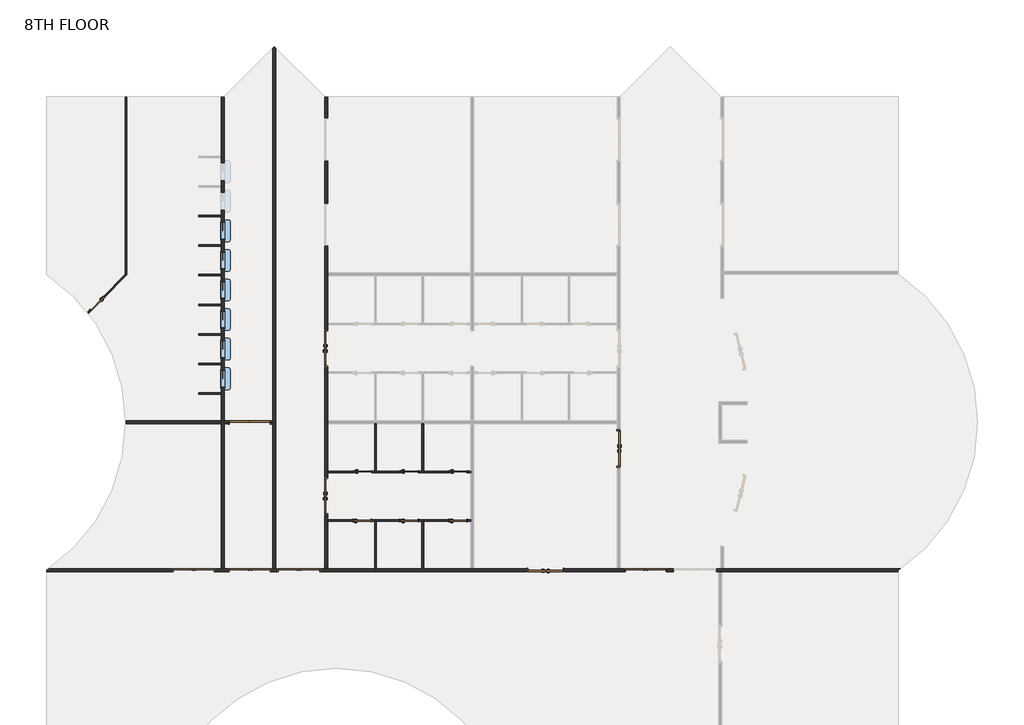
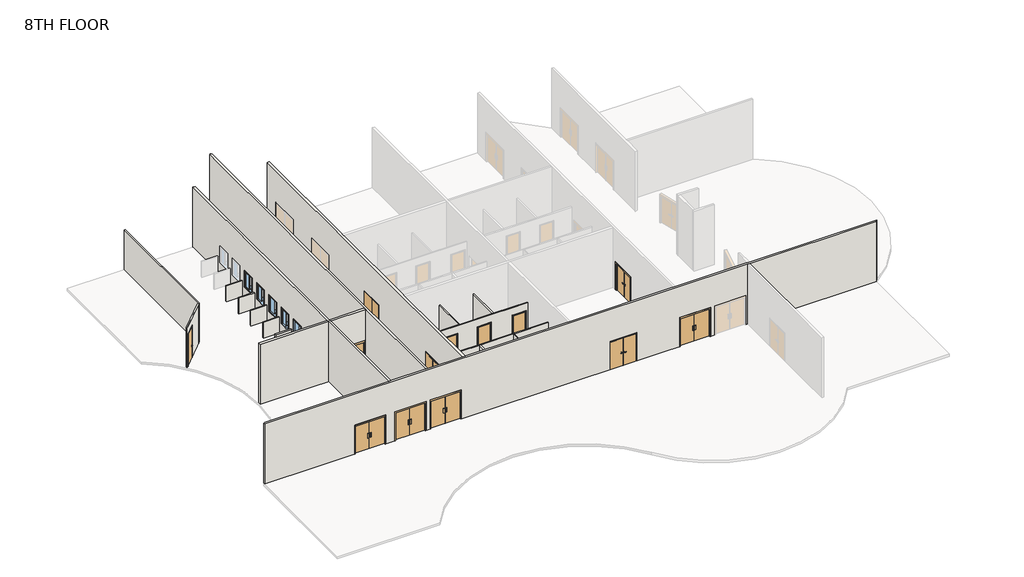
# One storey, part 1 of 2: 20 walls, 16 doors, 6 windows.
"""IFC4 building model written with IfcOpenShell, lengths in millimetres."""

from ifc_helpers import new_model, si_unit, point, frame, frame_2d, origin, place, context, project, spatial, polyline, circle_curve, trimmed, segment, composite_curve, outline, extrude, faceted_brep, transform, mapped, element, save
from ifc_brep_helpers import plane_surface, cylinder_surface, revolved_surface, advanced_brep
from components import door_2f250f70, door_0b13e4d9, door_b3a27a16, door_979b1b8c, door_f8b587be, pass_thru_4x3_19d81059

model = new_model("IFC4")

# Units and contexts
model_context = context("Model", 3, world=origin())
ifc_project = project(units=[si_unit("LENGTHUNIT", "METRE", prefix="MILLI")], contexts=[model_context])

# Site, building, storey
site = spatial("IfcSite", under=ifc_project)
building = spatial("IfcBuilding", under=site)
storey = spatial("IfcBuildingStorey", under=building, Name="8TH FLOOR", Elevation=36576.0)

# Doors
placement = place(None, origin())
door_shape = door_2f250f70(model_context)
element("IfcDoor", 1, ObjectType="Door-Passage-Double-Flush : 72\" x 82\"", at=placement, inside=storey, context=model_context, shape_type="MappedRepresentation", body=[
    mapped(door_shape, transform((14556.3400257, 13109.575, 36576.0), x_axis=(0.0, 1.0, 0.0), y_axis=(-1.0, 0.0, 0.0), z_axis=(0.0, 0.0, 1.0))),
])
element("IfcDoor", 2, ObjectType="Door-Passage-Double-Flush : 72\" x 82\"", at=placement, inside=storey, context=model_context, shape_type="MappedRepresentation", body=[
    mapped(door_shape, transform((14556.3400257, 20729.575, 36576.0), x_axis=(0.0, 1.0, 0.0), y_axis=(-1.0, 0.0, 0.0), z_axis=(0.0, 0.0, 1.0))),
])
element("IfcDoor", 3, ObjectType="Door-Passage-Double-Flush : 72\" x 82\"", at=placement, inside=storey, context=model_context, shape_type="MappedRepresentation", body=[
    mapped(door_shape, transform((25872.8337757, 9305.925, 36576.0), x_axis=(-1.0, 0.0, 0.0), y_axis=(0.0, -1.0, 0.0), z_axis=(0.0, 0.0, 1.0))),
])
element("IfcDoor", 4, ObjectType="Door-Passage-Double-Flush : 72\" x 82\"", at=placement, inside=storey, context=model_context, shape_type="MappedRepresentation", body=[
    mapped(door_shape, transform((29628.0650257, 15571.7875, 36576.0), x_axis=(0.0, -1.0, 0.0), y_axis=(1.0, 0.0, 0.0), z_axis=(0.0, 0.0, 1.0))),
])
door_2_shape = door_0b13e4d9(model_context)
element("IfcDoor", 5, ObjectType="Door-Passage-Double-Flush-Dbl_Acting : 84\" x 84\"", at=placement, inside=storey, context=model_context, shape_type="MappedRepresentation", body=[
    mapped(door_2_shape, transform((13151.4025257, 9293.225, 36576.0), x_axis=(-1.0, 0.0, 0.0), y_axis=(0.0, -1.0, 0.0), z_axis=(0.0, 0.0, 1.0))),
])
door_3_shape = door_b3a27a16(model_context)
element("IfcDoor", 6, ObjectType="Door-Passage-Double-Flush-Dbl_Acting : 84\" x 84\"", at=placement, inside=storey, context=model_context, shape_type="MappedRepresentation", body=[
    mapped(door_3_shape, transform((31033.0025257, 9293.225, 36576.0), x_axis=(1.0, 0.0, 0.0), y_axis=(0.0, 1.0, 0.0), z_axis=(0.0, 0.0, 1.0))),
])
element("IfcDoor", 7, ObjectType="Door-Passage-Double-Flush-Dbl_Acting : 84\" x 84\"", at=placement, inside=storey, context=model_context, shape_type="MappedRepresentation", body=[
    mapped(door_3_shape, transform((10620.375, 9293.225, 36576.0), x_axis=(1.0, 0.0, 0.0), y_axis=(0.0, 1.0, 0.0), z_axis=(0.0, 0.0, 1.0))),
])
element("IfcDoor", 8, ObjectType="Door-Passage-Double-Flush-Dbl_Acting : 84\" x 84\"", at=placement, inside=storey, context=model_context, shape_type="MappedRepresentation", body=[
    mapped(door_3_shape, transform((7730.5724743, 9293.225, 36576.0), x_axis=(1.0, 0.0, 0.0), y_axis=(0.0, 1.0, 0.0), z_axis=(0.0, 0.0, 1.0))),
])
element("IfcDoor", 9, ObjectType="Door-Passage-Double-Flush-Dbl_Acting : 84\" x 84\"", at=placement, inside=storey, context=model_context, shape_type="MappedRepresentation", body=[
    mapped(door_3_shape, transform((10620.375, 16913.225, 36576.0), x_axis=(1.0, 0.0, 0.0), y_axis=(0.0, 1.0, 0.0), z_axis=(0.0, 0.0, 1.0))),
])
door_4_shape = door_979b1b8c(model_context)
element("IfcDoor", 10, ObjectType="Door-Passage-Single-Flush : 36\" x 96\"", at=placement, inside=storey, context=model_context, shape_type="MappedRepresentation", body=[
    mapped(door_4_shape, transform((16456.5775257, 14357.35, 36576.0), x_axis=(1.0, 0.0, 0.0), y_axis=(0.0, 1.0, 0.0), z_axis=(0.0, 0.0, 1.0))),
])
element("IfcDoor", 11, ObjectType="Door-Passage-Single-Flush : 36\" x 96\"", at=placement, inside=storey, context=model_context, shape_type="MappedRepresentation", body=[
    mapped(door_4_shape, transform((18855.2900257, 14357.35, 36576.0), x_axis=(1.0, 0.0, 0.0), y_axis=(0.0, 1.0, 0.0), z_axis=(0.0, 0.0, 1.0))),
])
element("IfcDoor", 12, ObjectType="Door-Passage-Single-Flush : 36\" x 96\"", at=placement, inside=storey, context=model_context, shape_type="MappedRepresentation", body=[
    mapped(door_4_shape, transform((21373.0650257, 14357.35, 36576.0), x_axis=(1.0, 0.0, 0.0), y_axis=(0.0, 1.0, 0.0), z_axis=(0.0, 0.0, 1.0))),
])
element("IfcDoor", 13, ObjectType="Door-Passage-Single-Flush : 36\" x 96\"", at=placement, inside=storey, context=model_context, shape_type="MappedRepresentation", body=[
    mapped(door_4_shape, transform((2731.3607977, 23031.2061406, 36576.0), x_axis=(-0.7071067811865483, -0.7071067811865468, 0.0), y_axis=(0.7071067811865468, -0.7071067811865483, 0.0), z_axis=(0.0, 0.0, 1.0))),
])
door_5_shape = door_f8b587be(model_context)
element("IfcDoor", 14, ObjectType="Door-Passage-Single-Flush : 36\" x 96\"", at=placement, inside=storey, context=model_context, shape_type="MappedRepresentation", body=[
    mapped(door_5_shape, transform((16405.7775257, 11861.8, 36576.0), x_axis=(1.0, 0.0, 0.0), y_axis=(0.0, 1.0, 0.0), z_axis=(0.0, 0.0, 1.0))),
])
element("IfcDoor", 15, ObjectType="Door-Passage-Single-Flush : 36\" x 96\"", at=placement, inside=storey, context=model_context, shape_type="MappedRepresentation", body=[
    mapped(door_5_shape, transform((18836.2400257, 11861.8, 36576.0), x_axis=(1.0, 0.0, 0.0), y_axis=(0.0, 1.0, 0.0), z_axis=(0.0, 0.0, 1.0))),
])
element("IfcDoor", 16, ObjectType="Door-Passage-Single-Flush : 36\" x 96\"", at=placement, inside=storey, context=model_context, shape_type="MappedRepresentation", body=[
    mapped(door_5_shape, transform((21354.0150257, 11861.8, 36576.0), x_axis=(1.0, 0.0, 0.0), y_axis=(0.0, 1.0, 0.0), z_axis=(0.0, 0.0, 1.0))),
])

# Walls
element("IfcWall", 17, ObjectType="SYR_INT_ONE_HOUR", at=placement, inside=storey, context=model_context, shape_type="SweptSolid", body=[
    extrude(outline(polyline([(17066.1775257, 14403.3875), (17066.1775257, 16841.7875), (17145.5525257, 16841.7875), (17145.5525257, 14403.3875), (17066.1775257, 14403.3875)])), frame((0.0, 0.0, 36576.0), z_axis=(0.0, 0.0, 1.0), x_axis=(1.0, 0.0, 0.0)), (0.0, 0.0, 1.0), 3048.0),
])
element("IfcWall", 18, ObjectType="SYR_INT_ONE_HOUR", at=placement, inside=storey, context=model_context, shape_type="SweptSolid", body=[
    extrude(outline(polyline([(19576.0150257, 11815.7625), (19576.0150257, 9377.3625), (19496.6400257, 9377.3625), (19496.6400257, 11815.7625), (19576.0150257, 11815.7625)])), frame((0.0, 0.0, 36576.0), z_axis=(0.0, 0.0, 1.0), x_axis=(1.0, 0.0, 0.0)), (0.0, 0.0, 1.0), 3048.0),
])
element("IfcWall", 19, ObjectType="SYR_INT_ONE_HOUR", at=placement, inside=storey, context=model_context, shape_type="Brep", body=[
    faceted_brep([(14627.7775257, 14403.3875, 39624.0), (17066.1775257, 14403.3875, 39624.0), (17145.5525257, 14403.3875, 39624.0), (19496.6400257, 14403.3875, 39624.0), (19576.0150257, 14403.3875, 39624.0), (22014.4150257, 14403.3875, 39624.0), (22014.4150257, 14403.3875, 36576.0), (21862.0150257, 14403.3875, 36576.0), (21862.0150257, 14403.3875, 39046.15), (20884.1150257, 14403.3875, 39046.15), (20884.1150257, 14403.3875, 36576.0), (19576.0150257, 14403.3875, 36576.0), (19496.6400257, 14403.3875, 36576.0), (19344.2400257, 14403.3875, 36576.0), (19344.2400257, 14403.3875, 39046.15), (18366.3400257, 14403.3875, 39046.15), (18366.3400257, 14403.3875, 36576.0), (17145.5525257, 14403.3875, 36576.0), (17066.1775257, 14403.3875, 36576.0), (16945.5275257, 14403.3875, 36576.0), (16945.5275257, 14403.3875, 39046.15), (15967.6275257, 14403.3875, 39046.15), (15967.6275257, 14403.3875, 36576.0), (14627.7775257, 14403.3875, 36576.0), (22014.4150257, 14324.0125, 39624.0), (14627.7775257, 14324.0125, 39624.0), (14627.7775257, 14324.0125, 36576.0), (15967.6275257, 14324.0125, 36576.0), (15967.6275257, 14324.0125, 39046.15), (16945.5275257, 14324.0125, 39046.15), (16945.5275257, 14324.0125, 36576.0), (18366.3400257, 14324.0125, 36576.0), (18366.3400257, 14324.0125, 39046.15), (19344.2400257, 14324.0125, 39046.15), (19344.2400257, 14324.0125, 36576.0), (20884.1150257, 14324.0125, 36576.0), (20884.1150257, 14324.0125, 39046.15), (21862.0150257, 14324.0125, 39046.15), (21862.0150257, 14324.0125, 36576.0), (22014.4150257, 14324.0125, 36576.0)], [[[0, 1, 2, 3, 4, 5, 6, 7, 8, 9, 10, 11, 12, 13, 14, 15, 16, 17, 18, 19, 20, 21, 22, 23]], [[24, 25, 26, 27, 28, 29, 30, 31, 32, 33, 34, 35, 36, 37, 38, 39]], [[6, 39, 38, 7]], [[26, 23, 22, 27]], [[30, 19, 18, 17, 16, 31]], [[34, 13, 12, 11, 10, 35]], [[5, 4, 3, 2, 1, 0, 25, 24]], [[0, 23, 26, 25]], [[6, 5, 24, 39]], [[29, 20, 19, 30]], [[20, 29, 28, 21]], [[21, 28, 27, 22]], [[14, 13, 34, 33]], [[15, 14, 33, 32]], [[16, 15, 32, 31]], [[37, 8, 7, 38]], [[8, 37, 36, 9]], [[9, 36, 35, 10]]]),
])
element("IfcWall", 20, ObjectType="SYR_INT_ONE_HOUR", at=placement, inside=storey, context=model_context, shape_type="Brep", body=[
    faceted_brep([(14627.7775257, 11895.1375, 39624.0), (22014.4150257, 11895.1375, 39624.0), (22014.4150257, 11895.1375, 36576.0), (21842.9650257, 11895.1375, 36576.0), (21842.9650257, 11895.1375, 39046.15), (20865.0650257, 11895.1375, 39046.15), (20865.0650257, 11895.1375, 36576.0), (19325.1900257, 11895.1375, 36576.0), (19325.1900257, 11895.1375, 39046.15), (18347.2900257, 11895.1375, 39046.15), (18347.2900257, 11895.1375, 36576.0), (16894.7275257, 11895.1375, 36576.0), (16894.7275257, 11895.1375, 39046.15), (15916.8275257, 11895.1375, 39046.15), (15916.8275257, 11895.1375, 36576.0), (14627.7775257, 11895.1375, 36576.0), (22014.4150257, 11815.7625, 39624.0), (19576.0150257, 11815.7625, 39624.0), (19496.6400257, 11815.7625, 39624.0), (17145.5525257, 11815.7625, 39624.0), (17066.1775257, 11815.7625, 39624.0), (14627.7775257, 11815.7625, 39624.0), (14627.7775257, 11815.7625, 36576.0), (15916.8275257, 11815.7625, 36576.0), (15916.8275257, 11815.7625, 39046.15), (16894.7275257, 11815.7625, 39046.15), (16894.7275257, 11815.7625, 36576.0), (17066.1775257, 11815.7625, 36576.0), (17145.5525257, 11815.7625, 36576.0), (18347.2900257, 11815.7625, 36576.0), (18347.2900257, 11815.7625, 39046.15), (19325.1900257, 11815.7625, 39046.15), (19325.1900257, 11815.7625, 36576.0), (19496.6400257, 11815.7625, 36576.0), (19576.0150257, 11815.7625, 36576.0), (20865.0650257, 11815.7625, 36576.0), (20865.0650257, 11815.7625, 39046.15), (21842.9650257, 11815.7625, 39046.15), (21842.9650257, 11815.7625, 36576.0), (22014.4150257, 11815.7625, 36576.0)], [[[0, 1, 2, 3, 4, 5, 6, 7, 8, 9, 10, 11, 12, 13, 14, 15]], [[16, 17, 18, 19, 20, 21, 22, 23, 24, 25, 26, 27, 28, 29, 30, 31, 32, 33, 34, 35, 36, 37, 38, 39]], [[2, 39, 38, 3]], [[22, 15, 14, 23]], [[26, 11, 10, 29, 28, 27]], [[32, 7, 6, 35, 34, 33]], [[1, 0, 21, 20, 19, 18, 17, 16]], [[0, 15, 22, 21]], [[2, 1, 16, 39]], [[25, 12, 11, 26]], [[12, 25, 24, 13]], [[13, 24, 23, 14]], [[31, 8, 7, 32]], [[8, 31, 30, 9]], [[9, 30, 29, 10]], [[37, 4, 3, 38]], [[4, 37, 36, 5]], [[5, 36, 35, 6]]]),
])
element("IfcWall", 21, ObjectType="SYR_INT_ONE_HOUR", at=placement, inside=storey, context=model_context, shape_type="SweptSolid", body=[
    extrude(outline(polyline([(17066.1775257, 9377.3625), (17066.1775257, 11815.7625), (17145.5525257, 11815.7625), (17145.5525257, 9377.3625), (17066.1775257, 9377.3625)])), frame((0.0, 0.0, 36576.0), z_axis=(0.0, 0.0, 1.0), x_axis=(1.0, 0.0, 0.0)), (0.0, 0.0, 1.0), 3048.0),
])
element("IfcWall", 22, ObjectType="SYR_INT_ONE_HOUR", at=placement, inside=storey, context=model_context, shape_type="SweptSolid", body=[
    extrude(outline(polyline([(19576.0150257, 16841.7875), (19576.0150257, 14403.3875), (19496.6400257, 14403.3875), (19496.6400257, 16841.7875), (19576.0150257, 16841.7875)])), frame((0.0, 0.0, 36576.0), z_axis=(0.0, 0.0, 1.0), x_axis=(1.0, 0.0, 0.0)), (0.0, 0.0, 1.0), 3048.0),
])
element("IfcWall", 23, ObjectType="SYR_INT_ONE_HOUR", at=placement, inside=storey, context=model_context, shape_type="SweptSolid", body=[
    extrude(outline(polyline([(7979.2710938, 18443.575), (9144.0, 18443.575), (9144.0, 18364.2), (7979.2710938, 18364.2), (7979.2710938, 18443.575)])), frame((0.0, 0.0, 36576.0), z_axis=(0.0, 0.0, 1.0), x_axis=(1.0, 0.0, 0.0)), (0.0, 0.0, 1.0), 1219.2),
])
element("IfcWall", 24, ObjectType="SYR_INT_ONE_HOUR", at=placement, inside=storey, context=model_context, shape_type="SweptSolid", body=[
    extrude(outline(polyline([(7979.2710938, 19967.575), (9144.0, 19967.575), (9144.0, 19888.2), (7979.2710938, 19888.2), (7979.2710938, 19967.575)])), frame((0.0, 0.0, 36576.0), z_axis=(0.0, 0.0, 1.0), x_axis=(1.0, 0.0, 0.0)), (0.0, 0.0, 1.0), 1219.2),
])
element("IfcWall", 25, ObjectType="SYR_INT_ONE_HOUR", at=placement, inside=storey, context=model_context, shape_type="SweptSolid", body=[
    extrude(outline(polyline([(7979.2710938, 21491.575), (9144.0, 21491.575), (9144.0, 21412.2), (7979.2710938, 21412.2), (7979.2710938, 21491.575)])), frame((0.0, 0.0, 36576.0), z_axis=(0.0, 0.0, 1.0), x_axis=(1.0, 0.0, 0.0)), (0.0, 0.0, 1.0), 1219.2),
])
element("IfcWall", 26, ObjectType="SYR_INT_ONE_HOUR", at=placement, inside=storey, context=model_context, shape_type="SweptSolid", body=[
    extrude(outline(polyline([(7979.2710938, 23015.575), (9144.0, 23015.575), (9144.0, 22936.2), (7979.2710938, 22936.2), (7979.2710938, 23015.575)])), frame((0.0, 0.0, 36576.0), z_axis=(0.0, 0.0, 1.0), x_axis=(1.0, 0.0, 0.0)), (0.0, 0.0, 1.0), 1219.2),
])
element("IfcWall", 27, ObjectType="SYR_INT_ONE_HOUR", at=placement, inside=storey, context=model_context, shape_type="SweptSolid", body=[
    extrude(outline(polyline([(7979.2710938, 24539.575), (9144.0, 24539.575), (9144.0, 24460.2), (7979.2710938, 24460.2), (7979.2710938, 24539.575)])), frame((0.0, 0.0, 36576.0), z_axis=(0.0, 0.0, 1.0), x_axis=(1.0, 0.0, 0.0)), (0.0, 0.0, 1.0), 1219.2),
])
element("IfcWall", 28, ObjectType="SYR_INT_ONE_HOUR", at=placement, inside=storey, context=model_context, shape_type="SweptSolid", body=[
    extrude(outline(polyline([(7979.2710938, 26063.575), (9144.0, 26063.575), (9144.0, 25984.2), (7979.2710938, 25984.2), (7979.2710938, 26063.575)])), frame((0.0, 0.0, 36576.0), z_axis=(0.0, 0.0, 1.0), x_axis=(1.0, 0.0, 0.0)), (0.0, 0.0, 1.0), 1219.2),
])
element("IfcWall", 29, ObjectType="SYR_INT_ONE_HOUR", at=placement, inside=storey, context=model_context, shape_type="SweptSolid", body=[
    extrude(outline(polyline([(7979.2710938, 27587.575), (9144.0, 27587.575), (9144.0, 27508.2), (7979.2710938, 27508.2), (7979.2710938, 27587.575)])), frame((0.0, 0.0, 36576.0), z_axis=(0.0, 0.0, 1.0), x_axis=(1.0, 0.0, 0.0)), (0.0, 0.0, 1.0), 1219.2),
])
element("IfcWall", 30, ObjectType="SYR_INT_ONE_HOUR", at=placement, inside=storey, context=model_context, shape_type="Brep", body=[
    faceted_brep([(4209.0224132, 33683.575, 36576.0), (4209.0224132, 24556.0141008, 36576.0), (4209.0224132, 24443.7608992, 36576.0), (4209.0224132, 24443.7608992, 39624.0), (4209.0224132, 24556.0141008, 39624.0), (4209.0224132, 33683.575, 39624.0), (4288.3974132, 33683.575, 36576.0), (4288.3974132, 33683.575, 39624.0), (4288.3974132, 24523.1358992, 39624.0), (4288.3974132, 24523.1358992, 36576.0)], [[[0, 1, 2, 3, 4, 5]], [[6, 7, 8, 9]], [[2, 1, 0, 6, 9]], [[5, 4, 3, 8, 7]], [[3, 2, 9, 8]], [[0, 5, 7, 6]]]),
])
element("IfcWall", 31, ObjectType="SYR_INT_ONE_HOUR", at=placement, inside=storey, context=model_context, shape_type="AdvancedBrep", body=[
    advanced_brep(
    [(2260.5955581, 22607.5872456, 39624.0), (4209.0224132, 24556.0141008, 39624.0), (4209.0224132, 24556.0141008, 36576.0), (3053.527486, 23400.5191735, 36576.0), (3053.527486, 23400.5191735, 39046.15), (2362.0477647, 22709.0394522, 39046.15), (2362.0477647, 22709.0394522, 36576.0), (2260.5955581, 22607.5872456, 36576.0), (4209.0224132, 24443.7608992, 39624.0), (2310.04482, 22544.783306, 39624.0), (2310.04482, 22544.783306, 36576.0), (2418.1743655, 22652.9128515, 36576.0), (2418.1743655, 22652.9128515, 39046.15), (3109.6540868, 23344.3925728, 39046.15), (3109.6540868, 23344.3925728, 36576.0), (4209.0224132, 24443.7608992, 36576.0)],
    [
        (0, 1),
        (1, 2),
        (2, 3),
        (3, 4),
        (4, 5),
        (5, 6),
        (6, 7),
        (7, 0),
        (8, 9),
        (9, 10),
        (10, 11),
        (11, 12),
        (12, 13),
        (13, 14),
        (14, 15),
        (15, 8),
        (2, 15),
        (14, 3),
        (10, 7, circle_curve(frame((-4898.9611805, 16919.575, 36576.0), z_axis=(0.0, 0.0, 1.0), x_axis=(1.0, 0.0, 0.0)), 9144.0)),
        (6, 11),
        (0, 9, circle_curve(frame((-4898.9611805, 16919.575, 39624.0), z_axis=(0.0, 0.0, -1.0), x_axis=(1.0, 0.0, 0.0)), 9144.0)),
        (8, 1),
        (5, 12),
        (4, 13),
    ],
    [
        plane_surface(frame((4220.6466129, 24567.6383004, 36576.0), z_axis=(-0.7071067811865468, 0.7071067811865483, 0.0), x_axis=(-0.7071067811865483, -0.7071067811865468, 0.0))),
        plane_surface(frame((4276.7732136, 24511.5116996, 36576.0), z_axis=(0.7071067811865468, -0.7071067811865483, 0.0), x_axis=(0.7071067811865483, 0.7071067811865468, 0.0))),
        plane_surface(frame((4220.6466129, 24567.6383004, 36576.0), z_axis=(0.0, 0.0, -1.0), x_axis=(0.7071067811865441, -0.7071067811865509, 0.0))),
        plane_surface(frame((2146.5216178, 22493.5133053, 39624.0), z_axis=(0.0, 0.0, 1.0000000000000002), x_axis=(0.7071067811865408, -0.7071067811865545, 0.0))),
        plane_surface(frame((4209.0224132, 33778.5769531, 36576.0), z_axis=(1.0, 0.0, 0.0), x_axis=(0.0, -1.0, 0.0))),
        plane_surface(frame((1284.4170302, 23786.6701867, 36576.0), z_axis=(0.7071067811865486, 0.7071067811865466, 0.0), x_axis=(0.7071067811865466, -0.7071067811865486, 0.0))),
        plane_surface(frame((1284.4170302, 23786.6701867, 39046.15), z_axis=(0.0, 0.0, -1.0), x_axis=(0.7071067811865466, -0.7071067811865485, 0.0))),
        plane_surface(frame((1975.8967515, 24478.1499081, 39046.15), z_axis=(-0.7071067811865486, -0.7071067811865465, 0.0), x_axis=(0.7071067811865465, -0.7071067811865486, 0.0))),
        revolved_surface(polyline([(4245.0388195, 16919.575, 39624.0), (4245.0388195, 16919.575, 36576.0)]), (-4898.9611805, 16919.575, 0.0), (0.0, 0.0, 1.0)),
    ],
    [
        (0, [[1, 2, 3, 4, 5, 6, 7, 8]]),
        (1, [[9, 10, 11, 12, 13, 14, 15, 16]]),
        (2, [[17, -15, 18, -3]]),
        (2, [[19, -7, 20, -11]]),
        (3, [[-1, 21, -9, 22]]),
        (4, [[-2, -22, -16, -17]]),
        (5, [[23, -12, -20, -6]]),
        (6, [[-23, -5, 24, -13]]),
        (7, [[-24, -4, -18, -14]]),
        (8, [[-8, -19, -10, -21]]),
    ],
),
])
element("IfcWall", 32, ObjectType="SYR_INT_TWO_HOUR", at=placement, inside=storey, context=model_context, shape_type="AdvancedBrep", body=[
    advanced_brep(
    [(270.9292057, 9377.3625, 41148.0), (9144.0, 9377.3625, 41148.0), (9299.575, 9377.3625, 41148.0), (11808.1012629, 9377.3625, 41148.0), (11963.6762629, 9377.3625, 41148.0), (14472.2025257, 9377.3625, 41148.0), (14627.7775257, 9377.3625, 41148.0), (22014.4150257, 9377.3625, 41148.0), (22169.9900257, 9377.3625, 41148.0), (29556.6275257, 9377.3625, 41148.0), (29712.2025257, 9377.3625, 41148.0), (34884.8300515, 9377.3625, 41148.0), (35040.4050515, 9377.3625, 41148.0), (44144.1842571, 9377.3625, 41148.0), (44144.1842571, 9377.3625, 36576.0), (35040.4050515, 9377.3625, 36576.0), (34884.8300515, 9377.3625, 36576.0), (34681.6300515, 9377.3625, 36576.0), (34681.6300515, 9377.3625, 38811.2), (32446.4300515, 9377.3625, 38811.2), (32446.4300515, 9377.3625, 36576.0), (32150.6025257, 9377.3625, 36576.0), (32150.6025257, 9377.3625, 38811.2), (29915.4025257, 9377.3625, 38811.2), (29915.4025257, 9377.3625, 36576.0), (29712.2025257, 9377.3625, 36576.0), (29556.6275257, 9377.3625, 36576.0), (26838.0337757, 9377.3625, 36576.0), (26838.0337757, 9377.3625, 38760.4), (24907.6337757, 9377.3625, 38760.4), (24907.6337757, 9377.3625, 36576.0), (22169.9900257, 9377.3625, 36576.0), (22014.4150257, 9377.3625, 36576.0), (19576.0150257, 9377.3625, 36576.0), (19496.6400257, 9377.3625, 36576.0), (17145.5525257, 9377.3625, 36576.0), (17066.1775257, 9377.3625, 36576.0), (14627.7775257, 9377.3625, 36576.0), (14472.2025257, 9377.3625, 36576.0), (14269.0025257, 9377.3625, 36576.0), (14269.0025257, 9377.3625, 38811.2), (12033.8025257, 9377.3625, 38811.2), (12033.8025257, 9377.3625, 36576.0), (11963.6762629, 9377.3625, 36576.0), (11808.1012629, 9377.3625, 36576.0), (11737.975, 9377.3625, 36576.0), (11737.975, 9377.3625, 38811.2), (9502.775, 9377.3625, 38811.2), (9502.775, 9377.3625, 36576.0), (9299.575, 9377.3625, 36576.0), (9144.0, 9377.3625, 36576.0), (8848.1724743, 9377.3625, 36576.0), (8848.1724743, 9377.3625, 38811.2), (6612.9724743, 9377.3625, 38811.2), (6612.9724743, 9377.3625, 36576.0), (270.9292057, 9377.3625, 36576.0), (155.575, 9221.7875, 41148.0), (155.575, 9221.7875, 36576.0), (6612.9724743, 9221.7875, 36576.0), (6612.9724743, 9221.7875, 38811.2), (8848.1724743, 9221.7875, 38811.2), (8848.1724743, 9221.7875, 36576.0), (9502.775, 9221.7875, 36576.0), (9502.775, 9221.7875, 38811.2), (11737.975, 9221.7875, 38811.2), (11737.975, 9221.7875, 36576.0), (12033.8025257, 9221.7875, 36576.0), (12033.8025257, 9221.7875, 38811.2), (14269.0025257, 9221.7875, 38811.2), (14269.0025257, 9221.7875, 36576.0), (24907.6337757, 9221.7875, 36576.0), (24907.6337757, 9221.7875, 38760.4), (26838.0337757, 9221.7875, 38760.4), (26838.0337757, 9221.7875, 36576.0), (29915.4025257, 9221.7875, 36576.0), (29915.4025257, 9221.7875, 38811.2), (32150.6025257, 9221.7875, 38811.2), (32150.6025257, 9221.7875, 36576.0), (32446.4300515, 9221.7875, 36576.0), (32446.4300515, 9221.7875, 38811.2), (34681.6300515, 9221.7875, 38811.2), (34681.6300515, 9221.7875, 36576.0), (34803.3714577, 9221.7875, 36576.0), (34958.9464577, 9221.7875, 36576.0), (44028.8300515, 9221.7875, 36576.0), (44028.8300515, 9221.7875, 41148.0), (34958.9464577, 9221.7875, 41148.0), (34803.3714577, 9221.7875, 41148.0), (44028.8300515, 9299.575, 36576.0), (155.575, 9299.575, 36576.0), (155.575, 9299.575, 41148.0), (44028.8300515, 9299.575, 41148.0)],
    [
        (0, 1),
        (1, 2),
        (2, 3),
        (3, 4),
        (4, 5),
        (5, 6),
        (6, 7),
        (7, 8),
        (8, 9),
        (9, 10),
        (10, 11),
        (11, 12),
        (12, 13),
        (13, 14),
        (14, 15),
        (15, 16),
        (16, 17),
        (17, 18),
        (18, 19),
        (19, 20),
        (20, 21),
        (21, 22),
        (22, 23),
        (23, 24),
        (24, 25),
        (25, 26),
        (26, 27),
        (27, 28),
        (28, 29),
        (29, 30),
        (30, 31),
        (31, 32),
        (32, 33),
        (33, 34),
        (34, 35),
        (35, 36),
        (36, 37),
        (37, 38),
        (38, 39),
        (39, 40),
        (40, 41),
        (41, 42),
        (42, 43),
        (43, 44),
        (44, 45),
        (45, 46),
        (46, 47),
        (47, 48),
        (48, 49),
        (49, 50),
        (50, 51),
        (51, 52),
        (52, 53),
        (53, 54),
        (54, 55),
        (55, 0),
        (56, 57),
        (57, 58),
        (58, 59),
        (59, 60),
        (60, 61),
        (61, 62),
        (62, 63),
        (63, 64),
        (64, 65),
        (65, 66),
        (66, 67),
        (67, 68),
        (68, 69),
        (69, 70),
        (70, 71),
        (71, 72),
        (72, 73),
        (73, 74),
        (74, 75),
        (75, 76),
        (76, 77),
        (77, 78),
        (78, 79),
        (79, 80),
        (80, 81),
        (81, 82),
        (82, 83),
        (83, 84),
        (84, 85),
        (85, 86),
        (86, 87),
        (87, 56),
        (20, 78),
        (77, 21),
        (81, 17),
        (14, 88, circle_curve(frame((38974.293871, 16919.575, 36576.0), z_axis=(0.0, 0.0, -1.0), x_axis=(0.8333333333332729, 0.5527707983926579, 0.0)), 9144.0)),
        (88, 84),
        (24, 74),
        (73, 27),
        (42, 66),
        (65, 45),
        (69, 39),
        (30, 70),
        (48, 62),
        (61, 51),
        (54, 58),
        (57, 89),
        (89, 55, circle_curve(frame((-4898.9611805, 16919.575, 36576.0), z_axis=(0.0, 0.0, 1.0), x_axis=(0.8333333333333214, 0.5527707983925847, 0.0)), 9144.0)),
        (0, 90, circle_curve(frame((-4898.9611805, 16919.575, 41148.0), z_axis=(0.0, 0.0, -1.0), x_axis=(0.8333333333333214, 0.5527707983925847, 0.0)), 9144.0)),
        (90, 56),
        (85, 91),
        (91, 13, circle_curve(frame((38974.293871, 16919.575, 41148.0), z_axis=(0.0, 0.0, 1.0), x_axis=(0.8333333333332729, 0.5527707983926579, 0.0)), 9144.0)),
        (19, 79),
        (18, 80),
        (76, 22),
        (75, 23),
        (41, 67),
        (40, 68),
        (64, 46),
        (63, 47),
        (60, 52),
        (59, 53),
        (29, 71),
        (28, 72),
        (89, 90),
        (91, 88),
    ],
    [
        plane_surface(frame((44028.8300515, 9377.3625, 36576.0), z_axis=(0.0, 1.0, 0.0), x_axis=(-1.0, 0.0, 0.0))),
        plane_surface(frame((44028.8300515, 9221.7875, 36576.0), z_axis=(0.0, -1.0, 0.0), x_axis=(1.0, 0.0, 0.0))),
        plane_surface(frame((44305.118871, 9377.3625, 36576.0), z_axis=(0.0, 0.0, -1.0), x_axis=(0.0, -1.0, 0.0))),
        plane_surface(frame((0.0, 9377.3625, 41148.0), z_axis=(0.0, 0.0, 1.0), x_axis=(0.0, -1.0, 0.0))),
        plane_surface(frame((32446.4300515, 10745.7875, 36576.0), z_axis=(1.0, 0.0, 0.0), x_axis=(0.0, -1.0, 0.0))),
        plane_surface(frame((32446.4300515, 10745.7875, 38811.2), z_axis=(0.0, 0.0, -1.0), x_axis=(0.0, -1.0, 0.0))),
        plane_surface(frame((34681.6300515, 10745.7875, 38811.2), z_axis=(-1.0, 0.0, 0.0), x_axis=(0.0, -1.0, 0.0))),
        plane_surface(frame((32150.6025257, 7697.7875, 36576.0), z_axis=(-1.0, 0.0, 0.0), x_axis=(0.0, 1.0, 0.0))),
        plane_surface(frame((32150.6025257, 7697.7875, 38811.2), z_axis=(0.0, 0.0, -1.0), x_axis=(0.0, 1.0, 0.0))),
        plane_surface(frame((29915.4025257, 7697.7875, 38811.2), z_axis=(1.0, 0.0, 0.0), x_axis=(0.0, 1.0, 0.0))),
        plane_surface(frame((12033.8025257, 10745.7875, 36576.0), z_axis=(1.0, 0.0, 0.0), x_axis=(0.0, -1.0, 0.0))),
        plane_surface(frame((12033.8025257, 10745.7875, 38811.2), z_axis=(0.0, 0.0, -1.0), x_axis=(0.0, -1.0, 0.0))),
        plane_surface(frame((14269.0025257, 10745.7875, 38811.2), z_axis=(-1.0, 0.0, 0.0), x_axis=(0.0, -1.0, 0.0))),
        plane_surface(frame((11737.975, 7697.7875, 36576.0), z_axis=(-1.0, 0.0, 0.0), x_axis=(0.0, 1.0, 0.0))),
        plane_surface(frame((11737.975, 7697.7875, 38811.2), z_axis=(0.0, 0.0, -1.0), x_axis=(0.0, 1.0, 0.0))),
        plane_surface(frame((9502.775, 7697.7875, 38811.2), z_axis=(1.0, 0.0, 0.0), x_axis=(0.0, 1.0, 0.0))),
        plane_surface(frame((8848.1724743, 7697.7875, 36576.0), z_axis=(-1.0, 0.0, 0.0), x_axis=(0.0, 1.0, 0.0))),
        plane_surface(frame((8848.1724743, 7697.7875, 38811.2), z_axis=(0.0, 0.0, -1.0), x_axis=(0.0, 1.0, 0.0))),
        plane_surface(frame((6612.9724743, 7697.7875, 38811.2), z_axis=(1.0, 0.0, 0.0), x_axis=(0.0, 1.0, 0.0))),
        plane_surface(frame((24907.6337757, 10901.3625, 36576.0), z_axis=(1.0, 0.0, 0.0), x_axis=(0.0, -1.0, 0.0))),
        plane_surface(frame((24907.6337757, 10901.3625, 38760.4), z_axis=(0.0, 0.0, -1.0), x_axis=(0.0, -1.0, 0.0))),
        plane_surface(frame((26838.0337757, 10901.3625, 38760.4), z_axis=(-1.0, 0.0, 0.0), x_axis=(0.0, -1.0, 0.0))),
        revolved_surface(polyline([(2721.0388194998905, 21974.111180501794, 41148.0), (2721.0388194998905, 21974.111180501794, 36576.0)]), (-4898.9611805, 16919.575, 36347.4), (0.0, 0.0, 1.0)),
        plane_surface(frame((155.575, -12852.9844355, 36347.4), z_axis=(-1.0, 0.0, 0.0), x_axis=(0.0, -1.0, 0.0))),
        cylinder_surface(frame((38974.293871, 16919.575, 36347.4), z_axis=(0.0, 0.0, 1.0), x_axis=(0.8333333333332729, 0.5527707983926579, 0.0)), 9144.0),
        plane_surface(frame((44028.8300515, -12852.9844355, 36347.4), z_axis=(1.0, 0.0, 0.0), x_axis=(0.0, 1.0, 0.0))),
    ],
    [
        (0, [[1, 2, 3, 4, 5, 6, 7, 8, 9, 10, 11, 12, 13, 14, 15, 16, 17, 18, 19, 20, 21, 22, 23, 24, 25, 26, 27, 28, 29, 30, 31, 32, 33, 34, 35, 36, 37, 38, 39, 40, 41, 42, 43, 44, 45, 46, 47, 48, 49, 50, 51, 52, 53, 54, 55, 56]]),
        (1, [[57, 58, 59, 60, 61, 62, 63, 64, 65, 66, 67, 68, 69, 70, 71, 72, 73, 74, 75, 76, 77, 78, 79, 80, 81, 82, 83, 84, 85, 86, 87, 88]]),
        (2, [[89, -78, 90, -21]]),
        (2, [[91, -17, -16, -15, 92, 93, -84, -83, -82]]),
        (2, [[94, -74, 95, -27, -26, -25]]),
        (2, [[96, -66, 97, -45, -44, -43]]),
        (2, [[98, -39, -38, -37, -36, -35, -34, -33, -32, -31, 99, -70]]),
        (2, [[100, -62, 101, -51, -50, -49]]),
        (2, [[-55, 102, -58, 103, 104]]),
        (3, [[-13, -12, -11, -10, -9, -8, -7, -6, -5, -4, -3, -2, -1, 105, 106, -88, -87, -86, 107, 108]]),
        (4, [[109, -79, -89, -20]]),
        (5, [[-109, -19, 110, -80]]),
        (6, [[-110, -18, -91, -81]]),
        (7, [[111, -22, -90, -77]]),
        (8, [[-111, -76, 112, -23]]),
        (9, [[-112, -75, -94, -24]]),
        (10, [[113, -67, -96, -42]]),
        (11, [[-113, -41, 114, -68]]),
        (12, [[-114, -40, -98, -69]]),
        (13, [[115, -46, -97, -65]]),
        (14, [[-115, -64, 116, -47]]),
        (15, [[-116, -63, -100, -48]]),
        (16, [[117, -52, -101, -61]]),
        (17, [[-117, -60, 118, -53]]),
        (18, [[-118, -59, -102, -54]]),
        (19, [[119, -71, -99, -30]]),
        (20, [[-119, -29, 120, -72]]),
        (21, [[-120, -28, -95, -73]]),
        (22, [[-56, -104, 121, -105]]),
        (23, [[-57, -106, -121, -103]]),
        (24, [[-14, -108, 122, -92]]),
        (25, [[-85, -93, -122, -107]]),
    ],
),
])
element("IfcWall", 33, ObjectType="SYR_INT_TWO_HOUR", at=placement, inside=storey, context=model_context, shape_type="Brep", body=[
    faceted_brep([(9144.0, 33683.575, 36576.0), (9144.0, 30635.575, 36576.0), (9144.0, 30556.2, 36576.0), (9144.0, 29111.575, 36576.0), (9144.0, 29032.2, 36576.0), (9144.0, 27587.575, 36576.0), (9144.0, 27508.2, 36576.0), (9144.0, 26063.575, 36576.0), (9144.0, 25984.2, 36576.0), (9144.0, 24539.575, 36576.0), (9144.0, 24460.2, 36576.0), (9144.0, 23015.575, 36576.0), (9144.0, 22936.2, 36576.0), (9144.0, 21491.575, 36576.0), (9144.0, 21412.2, 36576.0), (9144.0, 19967.575, 36576.0), (9144.0, 19888.2, 36576.0), (9144.0, 18443.575, 36576.0), (9144.0, 18364.2, 36576.0), (9144.0, 16997.3625, 36576.0), (9144.0, 16841.7875, 36576.0), (9144.0, 9377.3625, 36576.0), (9144.0, 9377.3625, 41148.0), (9144.0, 16841.7875, 41148.0), (9144.0, 16997.3625, 41148.0), (9144.0, 33683.575, 41148.0), (9144.0, 19623.0875, 38709.6), (9144.0, 18708.6875, 38709.6), (9144.0, 18708.6875, 37490.4), (9144.0, 19623.0875, 37490.4), (9144.0, 21147.0875, 38709.6), (9144.0, 20232.6875, 38709.6), (9144.0, 20232.6875, 37490.4), (9144.0, 21147.0875, 37490.4), (9144.0, 22671.0875, 38709.6), (9144.0, 21756.6875, 38709.6), (9144.0, 21756.6875, 37490.4), (9144.0, 22671.0875, 37490.4), (9144.0, 24195.0875, 38709.6), (9144.0, 23280.6875, 38709.6), (9144.0, 23280.6875, 37490.4), (9144.0, 24195.0875, 37490.4), (9144.0, 25719.0875, 38709.6), (9144.0, 24804.6875, 38709.6), (9144.0, 24804.6875, 37490.4), (9144.0, 25719.0875, 37490.4), (9144.0, 27243.0875, 38709.6), (9144.0, 26328.6875, 38709.6), (9144.0, 26328.6875, 37490.4), (9144.0, 27243.0875, 37490.4), (9144.0, 28767.0875, 38709.6), (9144.0, 27852.6875, 38709.6), (9144.0, 27852.6875, 37490.4), (9144.0, 28767.0875, 37490.4), (9144.0, 30291.0875, 38709.6), (9144.0, 29376.6875, 38709.6), (9144.0, 29376.6875, 37490.4), (9144.0, 30291.0875, 37490.4), (9299.575, 33683.575, 36576.0), (9299.575, 33683.575, 41148.0), (9299.575, 16997.3625, 41148.0), (9299.575, 16841.7875, 41148.0), (9299.575, 9377.3625, 41148.0), (9299.575, 9377.3625, 36576.0), (9299.575, 16841.7875, 36576.0), (9299.575, 16997.3625, 36576.0), (9299.575, 19623.0875, 38709.6), (9299.575, 19623.0875, 37490.4), (9299.575, 18708.6875, 37490.4), (9299.575, 18708.6875, 38709.6), (9299.575, 21147.0875, 38709.6), (9299.575, 21147.0875, 37490.4), (9299.575, 20232.6875, 37490.4), (9299.575, 20232.6875, 38709.6), (9299.575, 22671.0875, 38709.6), (9299.575, 22671.0875, 37490.4), (9299.575, 21756.6875, 37490.4), (9299.575, 21756.6875, 38709.6), (9299.575, 24195.0875, 38709.6), (9299.575, 24195.0875, 37490.4), (9299.575, 23280.6875, 37490.4), (9299.575, 23280.6875, 38709.6), (9299.575, 25719.0875, 38709.6), (9299.575, 25719.0875, 37490.4), (9299.575, 24804.6875, 37490.4), (9299.575, 24804.6875, 38709.6), (9299.575, 27243.0875, 38709.6), (9299.575, 27243.0875, 37490.4), (9299.575, 26328.6875, 37490.4), (9299.575, 26328.6875, 38709.6), (9299.575, 28767.0875, 38709.6), (9299.575, 28767.0875, 37490.4), (9299.575, 27852.6875, 37490.4), (9299.575, 27852.6875, 38709.6), (9299.575, 30291.0875, 38709.6), (9299.575, 30291.0875, 37490.4), (9299.575, 29376.6875, 37490.4), (9299.575, 29376.6875, 38709.6)], [[[0, 1, 2, 3, 4, 5, 6, 7, 8, 9, 10, 11, 12, 13, 14, 15, 16, 17, 18, 19, 20, 21, 22, 23, 24, 25], [26, 27, 28, 29], [30, 31, 32, 33], [34, 35, 36, 37], [38, 39, 40, 41], [42, 43, 44, 45], [46, 47, 48, 49], [50, 51, 52, 53], [54, 55, 56, 57]], [[58, 59, 60, 61, 62, 63, 64, 65], [66, 67, 68, 69], [70, 71, 72, 73], [74, 75, 76, 77], [78, 79, 80, 81], [82, 83, 84, 85], [86, 87, 88, 89], [90, 91, 92, 93], [94, 95, 96, 97]], [[21, 20, 19, 18, 17, 16, 15, 14, 13, 12, 11, 10, 9, 8, 7, 6, 5, 4, 3, 2, 1, 0, 58, 65, 64, 63]], [[25, 24, 23, 22, 62, 61, 60, 59]], [[22, 21, 63, 62]], [[67, 66, 26, 29]], [[68, 67, 29, 28]], [[69, 68, 28, 27]], [[66, 69, 27, 26]], [[71, 70, 30, 33]], [[72, 71, 33, 32]], [[73, 72, 32, 31]], [[70, 73, 31, 30]], [[75, 74, 34, 37]], [[76, 75, 37, 36]], [[77, 76, 36, 35]], [[74, 77, 35, 34]], [[79, 78, 38, 41]], [[80, 79, 41, 40]], [[81, 80, 40, 39]], [[78, 81, 39, 38]], [[83, 82, 42, 45]], [[84, 83, 45, 44]], [[85, 84, 44, 43]], [[82, 85, 43, 42]], [[87, 86, 46, 49]], [[88, 87, 49, 48]], [[89, 88, 48, 47]], [[86, 89, 47, 46]], [[91, 90, 50, 53]], [[92, 91, 53, 52]], [[93, 92, 52, 51]], [[90, 93, 51, 50]], [[95, 94, 54, 57]], [[96, 95, 57, 56]], [[97, 96, 56, 55]], [[94, 97, 55, 54]], [[0, 25, 59, 58]]]),
])
element("IfcWall", 34, ObjectType="SYR_INT_TWO_HOUR", at=placement, inside=storey, context=model_context, shape_type="Brep", body=[
    faceted_brep([(14472.2025257, 9377.3625, 41148.0), (14472.2025257, 33683.575, 41148.0), (14472.2025257, 33683.575, 36576.0), (14472.2025257, 32616.775, 36576.0), (14472.2025257, 32616.775, 38811.2), (14472.2025257, 30381.575, 38811.2), (14472.2025257, 30381.575, 36576.0), (14472.2025257, 28219.4, 36576.0), (14472.2025257, 28219.4, 38811.2), (14472.2025257, 25984.2, 38811.2), (14472.2025257, 25984.2, 36576.0), (14472.2025257, 21694.775, 36576.0), (14472.2025257, 21694.775, 38760.4), (14472.2025257, 19764.375, 38760.4), (14472.2025257, 19764.375, 36576.0), (14472.2025257, 14074.775, 36576.0), (14472.2025257, 14074.775, 38760.4), (14472.2025257, 12144.375, 38760.4), (14472.2025257, 12144.375, 36576.0), (14472.2025257, 9377.3625, 36576.0), (14627.7775257, 33683.575, 41148.0), (14627.7775257, 24617.3625, 41148.0), (14627.7775257, 24461.7875, 41148.0), (14627.7775257, 16997.3625, 41148.0), (14627.7775257, 16841.7875, 41148.0), (14627.7775257, 9377.3625, 41148.0), (14627.7775257, 9377.3625, 36576.0), (14627.7775257, 11815.7625, 36576.0), (14627.7775257, 11895.1375, 36576.0), (14627.7775257, 12144.375, 36576.0), (14627.7775257, 12144.375, 38760.4), (14627.7775257, 14074.775, 38760.4), (14627.7775257, 14074.775, 36576.0), (14627.7775257, 14324.0125, 36576.0), (14627.7775257, 14403.3875, 36576.0), (14627.7775257, 16841.7875, 36576.0), (14627.7775257, 16997.3625, 36576.0), (14627.7775257, 19435.7625, 36576.0), (14627.7775257, 19515.1375, 36576.0), (14627.7775257, 19764.375, 36576.0), (14627.7775257, 19764.375, 38760.4), (14627.7775257, 21694.775, 38760.4), (14627.7775257, 21694.775, 36576.0), (14627.7775257, 21944.0125, 36576.0), (14627.7775257, 22023.3875, 36576.0), (14627.7775257, 24461.7875, 36576.0), (14627.7775257, 24617.3625, 36576.0), (14627.7775257, 25984.2, 36576.0), (14627.7775257, 25984.2, 38811.2), (14627.7775257, 28219.4, 38811.2), (14627.7775257, 28219.4, 36576.0), (14627.7775257, 30381.575, 36576.0), (14627.7775257, 30381.575, 38811.2), (14627.7775257, 32616.775, 38811.2), (14627.7775257, 32616.775, 36576.0), (14627.7775257, 33683.575, 36576.0)], [[[0, 1, 2, 3, 4, 5, 6, 7, 8, 9, 10, 11, 12, 13, 14, 15, 16, 17, 18, 19]], [[20, 21, 22, 23, 24, 25, 26, 27, 28, 29, 30, 31, 32, 33, 34, 35, 36, 37, 38, 39, 40, 41, 42, 43, 44, 45, 46, 47, 48, 49, 50, 51, 52, 53, 54, 55]], [[26, 19, 18, 29, 28, 27]], [[32, 15, 14, 39, 38, 37, 36, 35, 34, 33]], [[42, 11, 10, 47, 46, 45, 44, 43]], [[3, 2, 55, 54]], [[6, 51, 50, 7]], [[1, 0, 25, 24, 23, 22, 21, 20]], [[0, 19, 26, 25]], [[31, 16, 15, 32]], [[16, 31, 30, 17]], [[17, 30, 29, 18]], [[41, 12, 11, 42]], [[12, 41, 40, 13]], [[13, 40, 39, 14]], [[53, 4, 3, 54]], [[4, 53, 52, 5]], [[5, 52, 51, 6]], [[49, 8, 7, 50]], [[8, 49, 48, 9]], [[9, 48, 47, 10]], [[2, 1, 20, 55]]]),
])
element("IfcWall", 35, ObjectType="SYR_INT_TWO_HOUR", at=placement, inside=storey, context=model_context, shape_type="Brep", body=[
    faceted_brep([(11963.6762629, 9377.3625, 36576.0), (11963.6762629, 36192.1012629, 36576.0), (11963.6762629, 36192.1012629, 41148.0), (11963.6762629, 9377.3625, 41148.0), (11808.1012629, 9377.3625, 36576.0), (11808.1012629, 9377.3625, 41148.0), (11808.1012629, 16841.7875, 41148.0), (11808.1012629, 16997.3625, 41148.0), (11808.1012629, 36192.1012629, 41148.0), (11808.1012629, 36192.1012629, 36576.0), (11808.1012629, 16997.3625, 36576.0), (11808.1012629, 16841.7875, 36576.0), (11885.8887629, 36269.8887629, 36576.0), (11885.8887629, 36269.8887629, 41148.0)], [[[0, 1, 2, 3]], [[4, 5, 6, 7, 8, 9, 10, 11]], [[1, 0, 4, 11, 10, 9, 12]], [[3, 2, 13, 8, 7, 6, 5]], [[0, 3, 5, 4]], [[2, 1, 12, 13]], [[12, 9, 8, 13]]]),
])
element("IfcWall", 36, ObjectType="SYR_INT_TWO_HOUR", at=placement, inside=storey, context=model_context, shape_type="SweptSolid", body=[
    extrude(outline(polyline([(36576.0, 11808.1012629), (41148.0, 11808.1012629), (41148.0, 9299.575), (36576.0, 9299.575), (36576.0, 9502.775), (38811.2, 9502.775), (38811.2, 11737.975), (36576.0, 11737.975), (36576.0, 11808.1012629)])), frame((0.0, 16841.7875, 0.0), z_axis=(0.0, 1.0, 0.0), x_axis=(0.0, 0.0, 1.0)), (0.0, 0.0, 1.0), 155.575),
    extrude(outline(composite_curve([segment(trimmed(circle_curve(frame_2d((-4898.9611805, 16919.575)), 9144.0), [point((4244.7079465, 16841.7875))], [point((4244.7079465, 16997.3625))], True, "CARTESIAN"), True, "CONTINUOUS"), segment(polyline([(4244.7079465, 16997.3625), (9144.0, 16997.3625), (9144.0, 16841.7875), (4244.7079465, 16841.7875)]), True, "CONTINUOUS")], self_intersect=False)), frame((0.0, 0.0, 36576.0), z_axis=(0.0, 0.0, 1.0), x_axis=(1.0, 0.0, 0.0)), (0.0, 0.0, 1.0), 4572.0),
])

# Windows
pass_thru_4x3_shape = pass_thru_4x3_19d81059(model_context)
element("IfcWindow", 37, ObjectType="Pass thru : 4x3", at=placement, inside=storey, context=model_context, shape_type="MappedRepresentation", body=[
    mapped(pass_thru_4x3_shape, transform((9221.7875, 19165.8875, 36576.0), x_axis=(0.0, 1.0, 0.0), y_axis=(-1.0, 0.0, 0.0), z_axis=(0.0, 0.0, 1.0))),
])
element("IfcWindow", 38, ObjectType="Pass thru : 4x3", at=placement, inside=storey, context=model_context, shape_type="MappedRepresentation", body=[
    mapped(pass_thru_4x3_shape, transform((9221.7875, 20689.8875, 36576.0), x_axis=(0.0, 1.0, 0.0), y_axis=(-1.0, 0.0, 0.0), z_axis=(0.0, 0.0, 1.0))),
])
element("IfcWindow", 39, ObjectType="Pass thru : 4x3", at=placement, inside=storey, context=model_context, shape_type="MappedRepresentation", body=[
    mapped(pass_thru_4x3_shape, transform((9221.7875, 22213.8875, 36576.0), x_axis=(0.0, 1.0, 0.0), y_axis=(-1.0, 0.0, 0.0), z_axis=(0.0, 0.0, 1.0))),
])
element("IfcWindow", 40, ObjectType="Pass thru : 4x3", at=placement, inside=storey, context=model_context, shape_type="MappedRepresentation", body=[
    mapped(pass_thru_4x3_shape, transform((9221.7875, 23737.8875, 36576.0), x_axis=(0.0, 1.0, 0.0), y_axis=(-1.0, 0.0, 0.0), z_axis=(0.0, 0.0, 1.0))),
])
element("IfcWindow", 41, ObjectType="Pass thru : 4x3", at=placement, inside=storey, context=model_context, shape_type="MappedRepresentation", body=[
    mapped(pass_thru_4x3_shape, transform((9221.7875, 25261.8875, 36576.0), x_axis=(0.0, 1.0, 0.0), y_axis=(-1.0, 0.0, 0.0), z_axis=(0.0, 0.0, 1.0))),
])
element("IfcWindow", 42, ObjectType="Pass thru : 4x3", at=placement, inside=storey, context=model_context, shape_type="MappedRepresentation", body=[
    mapped(pass_thru_4x3_shape, transform((9221.7875, 26785.8875, 36576.0), x_axis=(0.0, 1.0, 0.0), y_axis=(-1.0, 0.0, 0.0), z_axis=(0.0, 0.0, 1.0))),
])

save(model, "model.ifc")
